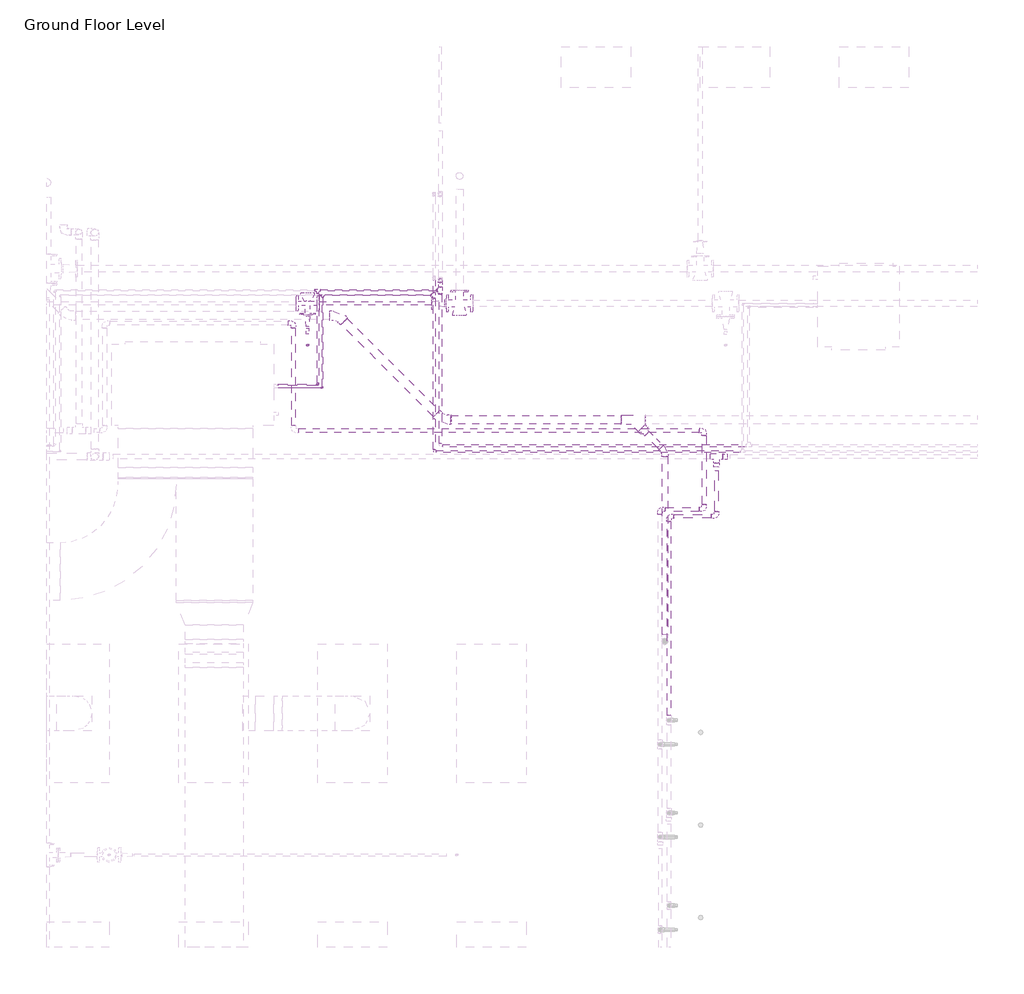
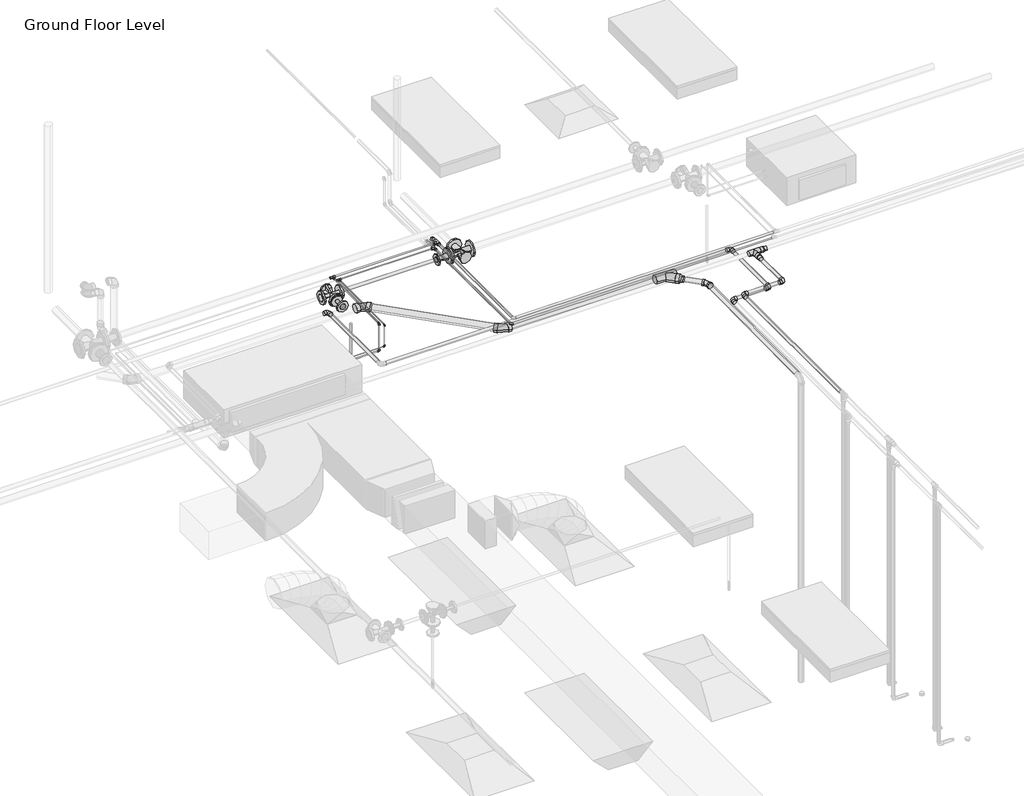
# One storey, part 53 of 73: 36 pipe fittings, 29 pipe segments, 1 fire suppression terminal.
"""IFC4 building model written with IfcOpenShell, lengths in millimetres."""

from ifc_helpers import new_model, si_unit, point, frame, frame_2d, origin, place, context, project, spatial, circle_curve, trimmed, segment, composite_curve, outline, extrude, transform, mapped, element, save
from components import m_sprinkler_pendent_15_mm_pendent_06fcbd8e, m_bend_pvc_sch_40_dwv_standard_9e3ead78, m_bend_pvc_sch_40_dwv_standard_3e306cb9, m_elbow_generic_standard_a088f956, m_elbow_generic_standard_2a704253, m_elbow_generic_standard_f25111a3, m_elbow_generic_standard_aa88c7e2, m_elbow_generic_standard_bb5ffebe, m_elbow_generic_standard_463efa77, m_reducer_flanged_cs_class_150_standard_ccf252ad, m_reducer_flanged_cs_class_150_standard_a7631c35, m_reducer_pvc_sch_40_dwv_standard_daff2b06, m_tee_generic_standard_cdc1cff5, m_tee_generic_standard_d9c36a1d, m_tee_generic_standard_3138dd84, m_tee_generic_standard_5078887e, m_tee_pvc_sch_40_standard_5dbb3026, m_tee_round_base_flanged_cs_class_150_standard_dd767e04, m_tee_round_base_flanged_cs_class_150_standard_7e5987a1, m_transition_generic_standard_6dc712c0, m_transition_generic_standard_b63c8674, m_transition_generic_standard_1c56dba2, m_transition_generic_standard_a7d161d7, m_transition_generic_standard_5a02929d, m_transition_generic_standard_5f8a9689, standard_517a5a8d, standard_08ff6011, standard_d0d0b892

model = new_model("IFC4")

# Units and contexts
model_context = context("Model", 3, world=origin())
ifc_project = project(units=[si_unit("LENGTHUNIT", "METRE", prefix="MILLI")], contexts=[model_context])

# Site, building, storey
site = spatial("IfcSite", under=ifc_project)
building = spatial("IfcBuilding", under=site)
storey = spatial("IfcBuildingStorey", under=building, Name="Ground Floor Level", Elevation=900.0)

# Fire suppression terminal
placement = place(None, origin())
m_sprinkler_pendent_15_mm_pendent_shape = m_sprinkler_pendent_15_mm_pendent_06fcbd8e(model_context)
element("IfcFireSuppressionTerminal", 1, ObjectType="M_Sprinkler - Pendent : 15 mm Pendent", at=placement, inside=storey, context=model_context, shape_type="MappedRepresentation", body=[
    mapped(m_sprinkler_pendent_15_mm_pendent_shape, transform((-3723.9852405, 14413.1701264, 3650.0), x_axis=(1.0, 0.0, 0.0), y_axis=(0.0, 1.0, 0.0), z_axis=(0.0, 0.0, 1.0))),
])

# Pipe fittings
m_bend_pvc_sch_40_dwv_standard_shape = m_bend_pvc_sch_40_dwv_standard_9e3ead78(model_context)
element("IfcPipeFitting", 2, ObjectType="M_Bend - PVC - Sch 40 - DWV : Standard", at=placement, inside=storey, context=model_context, shape_type="MappedRepresentation", body=[
    mapped(m_bend_pvc_sch_40_dwv_standard_shape, transform((-3461.339311, 14668.7334723, 4139.7239678), x_axis=(-0.707093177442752, 0.7070575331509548, 0.009427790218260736), y_axis=(-0.7070496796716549, -0.7071481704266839, 0.004713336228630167), z_axis=(0.009999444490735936, -0.003333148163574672, 0.9999444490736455))),
])
element("IfcPipeFitting", 3, ObjectType="M_Bend - PVC - Sch 40 - DWV : Standard", at=placement, inside=storey, context=model_context, shape_type="MappedRepresentation", body=[
    mapped(m_bend_pvc_sch_40_dwv_standard_shape, transform((-2561.2921336, 13768.7316659, 4127.72349), x_axis=(0.7070931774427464, -0.7070575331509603, -0.009427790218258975), y_axis=(0.7070496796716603, 0.7071481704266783, -0.0047133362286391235), z_axis=(0.009999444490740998, -0.003333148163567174, 0.9999444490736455))),
])
m_bend_pvc_sch_40_dwv_standard_2_shape = m_bend_pvc_sch_40_dwv_standard_3e306cb9(model_context)
element("IfcPipeFitting", 4, ObjectType="M_Bend - PVC - Sch 40 - DWV : Standard", at=placement, inside=storey, context=model_context, shape_type="MappedRepresentation", body=[
    mapped(m_bend_pvc_sch_40_dwv_standard_2_shape, transform((-642.2357232, 13495.4654482, 4110.1731446), x_axis=(0.0, 0.9999500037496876, 0.009999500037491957), y_axis=(-0.9999912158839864, -4.191228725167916e-05, 0.004191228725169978), z_axis=(0.004191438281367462, -0.00999941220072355, 0.9999412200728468))),
])
m_elbow_generic_standard_shape = m_elbow_generic_standard_a088f956(model_context)
element("IfcPipeFitting", 5, ObjectType="M_Elbow - Generic : Standard", at=placement, inside=storey, context=model_context, shape_type="MappedRepresentation", body=[
    mapped(m_elbow_generic_standard_shape, transform((-3637.0883718, 14069.8153534, 4380.0), x_axis=(0.0, 0.0, 1.0), y_axis=(0.0, 1.0, 0.0), z_axis=(-1.0, 0.0, 0.0))),
])
m_elbow_generic_standard_2_shape = m_elbow_generic_standard_2a704253(model_context)
element("IfcPipeFitting", 6, ObjectType="M_Elbow - Generic : Standard", at=placement, inside=storey, context=model_context, shape_type="MappedRepresentation", body=[
    mapped(m_elbow_generic_standard_2_shape, transform((-3597.0886568, 14044.8153534, 4365.0), x_axis=(0.0, 0.0, 1.0), y_axis=(0.0, 1.0, 0.0), z_axis=(-1.0, 0.0, 0.0))),
])
m_elbow_generic_standard_3_shape = m_elbow_generic_standard_f25111a3(model_context)
element("IfcPipeFitting", 7, ObjectType="M_Elbow - Generic : Standard", at=placement, inside=storey, context=model_context, shape_type="MappedRepresentation", body=[
    mapped(m_elbow_generic_standard_3_shape, transform((-3597.0886568, 14044.8153534, 4134.9021206), x_axis=(0.9999999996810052, 0.0, 2.525845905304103e-05), y_axis=(-2.525845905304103e-05, 0.0, 0.9999999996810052), z_axis=(0.0, -1.0, 0.0))),
])
m_elbow_generic_standard_4_shape = m_elbow_generic_standard_aa88c7e2(model_context)
element("IfcPipeFitting", 8, ObjectType="M_Elbow - Generic : Standard", at=placement, inside=storey, context=model_context, shape_type="MappedRepresentation", body=[
    mapped(m_elbow_generic_standard_4_shape, transform((-3637.0883718, 14069.8153534, 4084.1021206), x_axis=(0.9999999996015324, 0.0, 2.823004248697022e-05), y_axis=(-2.823004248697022e-05, 0.0, 0.9999999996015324), z_axis=(0.0, -1.0, 0.0))),
])
m_elbow_generic_standard_5_shape = m_elbow_generic_standard_bb5ffebe(model_context)
element("IfcPipeFitting", 9, ObjectType="M_Elbow - Generic : Standard", at=placement, inside=storey, context=model_context, shape_type="MappedRepresentation", body=[
    mapped(m_elbow_generic_standard_5_shape, transform((-2632.5317947, 13494.0185138, 4365.0), x_axis=(0.0, -1.0, 0.0), y_axis=(1.0, 0.0, 0.0), z_axis=(0.0, 0.0, 1.0))),
])
m_elbow_generic_standard_6_shape = m_elbow_generic_standard_463efa77(model_context)
element("IfcPipeFitting", 10, ObjectType="M_Elbow - Generic : Standard", at=placement, inside=storey, context=model_context, shape_type="MappedRepresentation", body=[
    mapped(m_elbow_generic_standard_6_shape, transform((-2579.6952605, 14974.394156, 4380.0), x_axis=(0.0, 1.0, 0.0), y_axis=(0.0, 0.0, -1.0), z_axis=(-1.0, 0.0, 0.0))),
])
m_reducer_flanged_cs_class_150_standard_shape = m_reducer_flanged_cs_class_150_standard_ccf252ad(model_context)
element("IfcPipeFitting", 11, ObjectType="M_Reducer - Flanged - CS - Class 150 : Standard", at=placement, inside=storey, context=model_context, shape_type="MappedRepresentation", body=[
    mapped(m_reducer_flanged_cs_class_150_standard_shape, transform((-3723.9852405, 14672.759591, 4291.0943441), x_axis=(0.0, -1.0, 0.0), y_axis=(1.0, 0.0, 0.0), z_axis=(0.0, 0.0, 1.0))),
])
m_reducer_flanged_cs_class_150_standard_2_shape = m_reducer_flanged_cs_class_150_standard_a7631c35(model_context)
element("IfcPipeFitting", 12, ObjectType="M_Reducer - Flanged - CS - Class 150 : Standard", at=placement, inside=storey, context=model_context, shape_type="MappedRepresentation", body=[
    mapped(m_reducer_flanged_cs_class_150_standard_2_shape, transform((-2527.9259545, 14773.4681847, 4291.0943441), x_axis=(-1.0, 0.0, 0.0), y_axis=(0.0, -1.0, 0.0), z_axis=(0.0, 0.0, 1.0))),
])
m_reducer_pvc_sch_40_dwv_standard_shape = m_reducer_pvc_sch_40_dwv_standard_daff2b06(model_context)
element("IfcPipeFitting", 13, ObjectType="M_Reducer - PVC - Sch 40 - DWV : Standard", at=placement, inside=storey, context=model_context, shape_type="MappedRepresentation", body=[
    mapped(m_reducer_pvc_sch_40_dwv_standard_shape, transform((-843.6840301, 13696.9036229, 4110.2439857), x_axis=(0.7070889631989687, -0.7070533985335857, -0.010034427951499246), y_axis=(0.707053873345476, 0.7071477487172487, -0.004108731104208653), z_axis=(0.010000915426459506, -0.004189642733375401, 0.9999412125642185))),
])
m_tee_generic_standard_shape = m_tee_generic_standard_cdc1cff5(model_context)
element("IfcPipeFitting", 14, ObjectType="M_Tee - Generic : Standard", at=placement, inside=storey, context=model_context, shape_type="MappedRepresentation", body=[
    mapped(m_tee_generic_standard_shape, transform((-3637.091079, 14885.6024145, 4380.0), x_axis=(-1.0, 0.0, 0.0), y_axis=(0.0, 1.0, 0.0), z_axis=(0.0, 0.0, -1.0))),
])
m_tee_generic_standard_2_shape = m_tee_generic_standard_d9c36a1d(model_context)
element("IfcPipeFitting", 15, ObjectType="M_Tee - Generic : Standard", at=placement, inside=storey, context=model_context, shape_type="MappedRepresentation", body=[
    mapped(m_tee_generic_standard_2_shape, transform((-3597.091079, 14844.4055749, 4365.0), x_axis=(1.0, 0.0, 0.0), y_axis=(0.0, 1.0, 0.0), z_axis=(0.0, 0.0, 1.0))),
])
m_tee_generic_standard_3_shape = m_tee_generic_standard_3138dd84(model_context)
element("IfcPipeFitting", 16, ObjectType="M_Tee - Generic : Standard", at=placement, inside=storey, context=model_context, shape_type="MappedRepresentation", body=[
    mapped(m_tee_generic_standard_3_shape, transform((-2579.6952605, 14885.6024145, 4380.0), x_axis=(0.0, 1.0, 0.0), y_axis=(1.0, 0.0, 0.0), z_axis=(0.0, 0.0, -1.0))),
])
m_tee_generic_standard_4_shape = m_tee_generic_standard_5078887e(model_context)
element("IfcPipeFitting", 17, ObjectType="M_Tee - Generic : Standard", at=placement, inside=storey, context=model_context, shape_type="MappedRepresentation", body=[
    mapped(m_tee_generic_standard_4_shape, transform((-2632.5317947, 14844.4055749, 4365.0), x_axis=(0.0, 1.0, 0.0), y_axis=(1.0, 0.0, 0.0), z_axis=(0.0, 0.0, -1.0))),
])
m_tee_pvc_sch_40_standard_shape = m_tee_pvc_sch_40_standard_5dbb3026(model_context)
element("IfcPipeFitting", 18, ObjectType="M_Tee - PVC - Sch 40 : Standard", at=placement, inside=storey, context=model_context, shape_type="MappedRepresentation", body=[
    mapped(m_tee_pvc_sch_40_standard_shape, transform((-915.515686, 13768.7316659, 4111.2633618), x_axis=(-0.9999499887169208, 0.0, 0.010001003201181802), y_axis=(4.190063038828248e-05, 0.9999912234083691, 0.004189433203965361), z_axis=(-0.010000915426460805, 0.004189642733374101, -0.9999412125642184))),
])
m_tee_round_base_flanged_cs_class_150_standard_shape = m_tee_round_base_flanged_cs_class_150_standard_dd767e04(model_context)
element("IfcPipeFitting", 19, ObjectType="M_Tee Round Base - Flanged - CS - Class 150 : Standard", at=placement, inside=storey, context=model_context, shape_type="MappedRepresentation", body=[
    mapped(m_tee_round_base_flanged_cs_class_150_standard_shape, transform((-2413.9259545, 14773.4681847, 4291.0943441), x_axis=(-1.0, 0.0, 0.0), y_axis=(0.0, -1.0, 0.0), z_axis=(0.0, 0.0, 1.0))),
])
m_tee_round_base_flanged_cs_class_150_standard_2_shape = m_tee_round_base_flanged_cs_class_150_standard_7e5987a1(model_context)
element("IfcPipeFitting", 20, ObjectType="M_Tee Round Base - Flanged - CS - Class 150 : Standard", at=placement, inside=storey, context=model_context, shape_type="MappedRepresentation", body=[
    mapped(m_tee_round_base_flanged_cs_class_150_standard_2_shape, transform((-3723.9852405, 14773.4681847, 4291.0943441), x_axis=(-1.0, 0.0, 0.0), y_axis=(0.0, 1.0, 0.0), z_axis=(0.0, 0.0, -1.0))),
])
m_transition_generic_standard_shape = m_transition_generic_standard_6dc712c0(model_context)
element("IfcPipeFitting", 21, ObjectType="M_Transition - Generic : Standard", at=placement, inside=storey, context=model_context, shape_type="MappedRepresentation", body=[
    mapped(m_transition_generic_standard_shape, transform((-3659.316079, 14885.6024145, 4380.0), x_axis=(-1.0, 0.0, 0.0), y_axis=(0.0, -1.0, 0.0), z_axis=(0.0, 0.0, 1.0))),
])
element("IfcPipeFitting", 22, ObjectType="M_Transition - Generic : Standard", at=placement, inside=storey, context=model_context, shape_type="MappedRepresentation", body=[
    mapped(m_transition_generic_standard_shape, transform((-3637.091079, 14863.3774145, 4380.0), x_axis=(0.0, -1.0, 0.0), y_axis=(1.0, 0.0, 0.0), z_axis=(0.0, 0.0, 1.0))),
])
m_transition_generic_standard_2_shape = m_transition_generic_standard_b63c8674(model_context)
element("IfcPipeFitting", 23, ObjectType="M_Transition - Generic : Standard", at=placement, inside=storey, context=model_context, shape_type="MappedRepresentation", body=[
    mapped(m_transition_generic_standard_2_shape, transform((-3616.128579, 14844.4055749, 4365.0), x_axis=(-1.0, 0.0, 0.0), y_axis=(0.0, -1.0, 0.0), z_axis=(0.0, 0.0, 1.0))),
])
element("IfcPipeFitting", 24, ObjectType="M_Transition - Generic : Standard", at=placement, inside=storey, context=model_context, shape_type="MappedRepresentation", body=[
    mapped(m_transition_generic_standard_2_shape, transform((-3597.091079, 14825.3680749, 4365.0), x_axis=(0.0, -1.0, 0.0), y_axis=(1.0, 0.0, 0.0), z_axis=(0.0, 0.0, 1.0))),
])
m_transition_generic_standard_3_shape = m_transition_generic_standard_1c56dba2(model_context)
element("IfcPipeFitting", 25, ObjectType="M_Transition - Generic : Standard", at=placement, inside=storey, context=model_context, shape_type="MappedRepresentation", body=[
    mapped(m_transition_generic_standard_3_shape, transform((-2608.2702605, 14885.6024145, 4380.0), x_axis=(-1.0, 0.0, 0.0), y_axis=(0.0, -1.0, 0.0), z_axis=(0.0, 0.0, 1.0))),
])
m_transition_generic_standard_4_shape = m_transition_generic_standard_a7d161d7(model_context)
element("IfcPipeFitting", 26, ObjectType="M_Transition - Generic : Standard", at=placement, inside=storey, context=model_context, shape_type="MappedRepresentation", body=[
    mapped(m_transition_generic_standard_4_shape, transform((-2656.3442947, 14844.4055749, 4365.0), x_axis=(-1.0, 0.0, 0.0), y_axis=(0.0, -1.0, 0.0), z_axis=(0.0, 0.0, 1.0))),
])
m_transition_generic_standard_5_shape = m_transition_generic_standard_5a02929d(model_context)
element("IfcPipeFitting", 27, ObjectType="M_Transition - Generic : Standard", at=placement, inside=storey, context=model_context, shape_type="MappedRepresentation", body=[
    mapped(m_transition_generic_standard_5_shape, transform((-2579.6952605, 14857.0274145, 4380.0), x_axis=(0.0, -1.0, 0.0), y_axis=(1.0, 0.0, 0.0), z_axis=(0.0, 0.0, 1.0))),
])
m_transition_generic_standard_6_shape = m_transition_generic_standard_5f8a9689(model_context)
element("IfcPipeFitting", 28, ObjectType="M_Transition - Generic : Standard", at=placement, inside=storey, context=model_context, shape_type="MappedRepresentation", body=[
    mapped(m_transition_generic_standard_6_shape, transform((-2632.5317947, 14820.5930749, 4365.0), x_axis=(0.0, -1.0, 0.0), y_axis=(1.0, 0.0, 0.0), z_axis=(0.0, 0.0, 1.0))),
])
standard_shape = standard_517a5a8d(model_context)
element("IfcPipeFitting", 29, ObjectType="M_Elbow - CPVC - Sch 40 : Standard", at=placement, inside=storey, context=model_context, shape_type="MappedRepresentation", body=[
    mapped(standard_shape, transform((-607.2327605, 12935.5128345, 4315.0), x_axis=(-1.0, 0.0, 0.0), y_axis=(0.0, -1.0, 0.0), z_axis=(0.0, 0.0, 1.0))),
])
element("IfcPipeFitting", 30, ObjectType="M_Elbow - CPVC - Sch 40 : Standard", at=placement, inside=storey, context=model_context, shape_type="MappedRepresentation", body=[
    mapped(standard_shape, transform((-197.2327605, 12935.5128345, 4315.0), x_axis=(1.0, 0.0, 0.0), y_axis=(0.0, 1.0, 0.0), z_axis=(0.0, 0.0, 1.0))),
])
element("IfcPipeFitting", 31, ObjectType="M_Elbow - CPVC - Sch 40 : Standard", at=placement, inside=storey, context=model_context, shape_type="MappedRepresentation", body=[
    mapped(standard_shape, transform((-304.0671674, 13675.2153534, 4250.0), x_axis=(0.0, 1.0, 0.0), y_axis=(-1.0, 0.0, 0.0), z_axis=(0.0, 0.0, 1.0))),
])
element("IfcPipeFitting", 32, ObjectType="M_Elbow - CPVC - Sch 40 : Standard", at=placement, inside=storey, context=model_context, shape_type="MappedRepresentation", body=[
    mapped(standard_shape, transform((-304.0671674, 12995.2153534, 4250.0), x_axis=(1.0, 0.0, 0.0), y_axis=(0.0, 1.0, 0.0), z_axis=(0.0, 0.0, 1.0))),
])
element("IfcPipeFitting", 33, ObjectType="M_Elbow - CPVC - Sch 40 : Standard", at=placement, inside=storey, context=model_context, shape_type="MappedRepresentation", body=[
    mapped(standard_shape, transform((-684.0671674, 12995.2153534, 4250.0), x_axis=(-1.0, 0.0, 0.0), y_axis=(0.0, -1.0, 0.0), z_axis=(0.0, 0.0, 1.0))),
])
element("IfcPipeFitting", 34, ObjectType="M_Elbow - CPVC - Sch 40 : Standard", at=placement, inside=storey, context=model_context, shape_type="MappedRepresentation", body=[
    mapped(standard_shape, transform((-3846.4489567, 14603.43487, 4250.0), x_axis=(0.0, 1.0, 0.0), y_axis=(-1.0, 0.0, 0.0), z_axis=(0.0, 0.0, 1.0))),
])
standard_2_shape = standard_08ff6011(model_context)
element("IfcPipeFitting", 35, ObjectType="M_Tee - CPVC - Sch 40 : Standard", at=placement, inside=storey, context=model_context, shape_type="MappedRepresentation", body=[
    mapped(standard_2_shape, transform((-197.2327605, 13449.9865561, 4315.0), x_axis=(1.0, 0.0, 0.0), y_axis=(0.0, 1.0, 0.0), z_axis=(0.0, 0.0, 1.0))),
])
standard_3_shape = standard_d0d0b892(model_context)
element("IfcPipeFitting", 36, ObjectType="M_Coupling Reducing - CPVC - Sch 40 : Standard", at=placement, inside=storey, context=model_context, shape_type="MappedRepresentation", body=[
    mapped(standard_3_shape, transform((-143.2577605, 13449.9865561, 4315.0), x_axis=(1.0, 0.0, 0.0), y_axis=(0.0, 1.0, 0.0), z_axis=(0.0, 0.0, 1.0))),
])
element("IfcPipeFitting", 37, ObjectType="M_Coupling Reducing - CPVC - Sch 40 : Standard", at=placement, inside=storey, context=model_context, shape_type="MappedRepresentation", body=[
    mapped(standard_3_shape, transform((-197.2327605, 13396.0115561, 4315.0), x_axis=(0.0, -1.0, 0.0), y_axis=(1.0, 0.0, 0.0), z_axis=(0.0, 0.0, 1.0))),
])

# Pipe segments
element("IfcPipeSegment", 38, ObjectType="CPVC", at=placement, inside=storey, context=model_context, shape_type="SweptSolid", body=[
    extrude(outline(composite_curve([segment(trimmed(circle_curve(frame_2d((4315.0, -607.2327605)), 16.7005), [point((4315.0, -590.5322605))], [point((4331.7005, -607.2327605))], False, "CARTESIAN"), True, "CONTINUOUS"), segment(trimmed(circle_curve(frame_2d((4315.0, -607.2327605)), 16.7005), [point((4331.7005, -607.2327605))], [point((4315.0, -623.9332605))], False, "CARTESIAN"), True, "CONTINUOUS"), segment(trimmed(circle_curve(frame_2d((4315.0, -607.2327605)), 16.7005), [point((4315.0, -623.9332605))], [point((4298.2995, -607.2327605))], False, "CARTESIAN"), True, "CONTINUOUS"), segment(trimmed(circle_curve(frame_2d((4315.0, -607.2327605)), 16.7005), [point((4298.2995, -607.2327605))], [point((4315.0, -590.5322605))], False, "CARTESIAN"), True, "CONTINUOUS")], self_intersect=False)), frame((0.0, 11215.2130345, 0.0), z_axis=(0.0, 1.0, 0.0), x_axis=(0.0, 0.0, 1.0)), (0.0, 0.0, 1.0), 1677.03725),
])
element("IfcPipeSegment", 39, ObjectType="CPVC", at=placement, inside=storey, context=model_context, shape_type="SweptSolid", body=[
    extrude(outline(composite_curve([segment(trimmed(circle_curve(frame_2d((12935.5128345, 4315.0)), 16.7005), [point((12918.8123345, 4315.0))], [point((12935.5128345, 4331.7005))], False, "CARTESIAN"), True, "CONTINUOUS"), segment(trimmed(circle_curve(frame_2d((12935.5128345, 4315.0)), 16.7005), [point((12935.5128345, 4331.7005))], [point((12952.2133345, 4315.0))], False, "CARTESIAN"), True, "CONTINUOUS"), segment(trimmed(circle_curve(frame_2d((12935.5128345, 4315.0)), 16.7005), [point((12952.2133345, 4315.0))], [point((12935.5128345, 4298.2995))], False, "CARTESIAN"), True, "CONTINUOUS"), segment(trimmed(circle_curve(frame_2d((12935.5128345, 4315.0)), 16.7005), [point((12935.5128345, 4298.2995))], [point((12918.8123345, 4315.0))], False, "CARTESIAN"), True, "CONTINUOUS")], self_intersect=False)), frame((-563.9702105, 0.0, 0.0), z_axis=(1.0, 0.0, 0.0), x_axis=(0.0, 1.0, 0.0)), (0.0, 0.0, 1.0), 323.4749),
])
element("IfcPipeSegment", 40, ObjectType="CPVC", at=placement, inside=storey, context=model_context, shape_type="SweptSolid", body=[
    extrude(outline(composite_curve([segment(trimmed(circle_curve(frame_2d((4315.0, -197.2327605)), 16.7005), [point((4315.0, -180.5322605))], [point((4331.7005, -197.2327605))], False, "CARTESIAN"), True, "CONTINUOUS"), segment(trimmed(circle_curve(frame_2d((4315.0, -197.2327605)), 16.7005), [point((4331.7005, -197.2327605))], [point((4315.0, -213.9332605))], False, "CARTESIAN"), True, "CONTINUOUS"), segment(trimmed(circle_curve(frame_2d((4315.0, -197.2327605)), 16.7005), [point((4315.0, -213.9332605))], [point((4298.2995, -197.2327605))], False, "CARTESIAN"), True, "CONTINUOUS"), segment(trimmed(circle_curve(frame_2d((4315.0, -197.2327605)), 16.7005), [point((4298.2995, -197.2327605))], [point((4315.0, -180.5322605))], False, "CARTESIAN"), True, "CONTINUOUS")], self_intersect=False)), frame((0.0, 12978.7753845, 0.0), z_axis=(0.0, 1.0, 0.0), x_axis=(0.0, 0.0, 1.0)), (0.0, 0.0, 1.0), 351.1172966),
])
element("IfcPipeSegment", 41, ObjectType="CPVC", at=placement, inside=storey, context=model_context, shape_type="SweptSolid", body=[
    extrude(outline(composite_curve([segment(trimmed(circle_curve(frame_2d((4250.0, -304.0671674)), 16.7005), [point((4250.0, -320.7676674))], [point((4233.2995, -304.0671674))], False, "CARTESIAN"), True, "CONTINUOUS"), segment(trimmed(circle_curve(frame_2d((4250.0, -304.0671674)), 16.7005), [point((4233.2995, -304.0671674))], [point((4250.0, -287.3666674))], False, "CARTESIAN"), True, "CONTINUOUS"), segment(trimmed(circle_curve(frame_2d((4250.0, -304.0671674)), 16.7005), [point((4250.0, -287.3666674))], [point((4266.7005, -304.0671674))], False, "CARTESIAN"), True, "CONTINUOUS"), segment(trimmed(circle_curve(frame_2d((4250.0, -304.0671674)), 16.7005), [point((4266.7005, -304.0671674))], [point((4250.0, -320.7676674))], False, "CARTESIAN"), True, "CONTINUOUS")], self_intersect=False)), frame((0.0, 13038.4779034, 0.0), z_axis=(0.0, 1.0, 0.0), x_axis=(0.0, 0.0, 1.0)), (0.0, 0.0, 1.0), 593.4749),
])
element("IfcPipeSegment", 42, ObjectType="CPVC", at=placement, inside=storey, context=model_context, shape_type="SweptSolid", body=[
    extrude(outline(composite_curve([segment(trimmed(circle_curve(frame_2d((12995.2153534, 4250.0)), 16.7005), [point((13011.9158534, 4250.0))], [point((12995.2153534, 4233.2995))], False, "CARTESIAN"), True, "CONTINUOUS"), segment(trimmed(circle_curve(frame_2d((12995.2153534, 4250.0)), 16.7005), [point((12995.2153534, 4233.2995))], [point((12978.5148534, 4250.0))], False, "CARTESIAN"), True, "CONTINUOUS"), segment(trimmed(circle_curve(frame_2d((12995.2153534, 4250.0)), 16.7005), [point((12978.5148534, 4250.0))], [point((12995.2153534, 4266.7005))], False, "CARTESIAN"), True, "CONTINUOUS"), segment(trimmed(circle_curve(frame_2d((12995.2153534, 4250.0)), 16.7005), [point((12995.2153534, 4266.7005))], [point((13011.9158534, 4250.0))], False, "CARTESIAN"), True, "CONTINUOUS")], self_intersect=False)), frame((-640.8046174, 0.0, 0.0), z_axis=(1.0, 0.0, 0.0), x_axis=(0.0, 1.0, 0.0)), (0.0, 0.0, 1.0), 293.4749),
])
element("IfcPipeSegment", 43, ObjectType="CPVC", at=placement, inside=storey, context=model_context, shape_type="SweptSolid", body=[
    extrude(outline(composite_curve([segment(trimmed(circle_curve(frame_2d((4250.0, -3846.4489567)), 16.7005), [point((4250.0, -3863.1494567))], [point((4233.2995, -3846.4489567))], False, "CARTESIAN"), True, "CONTINUOUS"), segment(trimmed(circle_curve(frame_2d((4250.0, -3846.4489567)), 16.7005), [point((4233.2995, -3846.4489567))], [point((4250.0, -3829.7484567))], False, "CARTESIAN"), True, "CONTINUOUS"), segment(trimmed(circle_curve(frame_2d((4250.0, -3846.4489567)), 16.7005), [point((4250.0, -3829.7484567))], [point((4266.7005, -3846.4489567))], False, "CARTESIAN"), True, "CONTINUOUS"), segment(trimmed(circle_curve(frame_2d((4250.0, -3846.4489567)), 16.7005), [point((4266.7005, -3846.4489567))], [point((4250.0, -3863.1494567))], False, "CARTESIAN"), True, "CONTINUOUS")], self_intersect=False)), frame((0.0, 13718.4779034, 0.0), z_axis=(0.0, 1.0, 0.0), x_axis=(0.0, 0.0, 1.0)), (0.0, 0.0, 1.0), 841.6944166),
])
element("IfcPipeSegment", 44, ObjectType="CPVC", at=placement, inside=storey, context=model_context, shape_type="SweptSolid", body=[
    extrude(outline(composite_curve([segment(trimmed(circle_curve(frame_2d((13675.2153534, 4250.0)), 16.7005), [point((13691.9158534, 4250.0))], [point((13675.2153534, 4233.2995))], False, "CARTESIAN"), True, "CONTINUOUS"), segment(trimmed(circle_curve(frame_2d((13675.2153534, 4250.0)), 16.7005), [point((13675.2153534, 4233.2995))], [point((13658.5148534, 4250.0))], False, "CARTESIAN"), True, "CONTINUOUS"), segment(trimmed(circle_curve(frame_2d((13675.2153534, 4250.0)), 16.7005), [point((13658.5148534, 4250.0))], [point((13675.2153534, 4266.7005))], False, "CARTESIAN"), True, "CONTINUOUS"), segment(trimmed(circle_curve(frame_2d((13675.2153534, 4250.0)), 16.7005), [point((13675.2153534, 4266.7005))], [point((13691.9158534, 4250.0))], False, "CARTESIAN"), True, "CONTINUOUS")], self_intersect=False)), frame((-3803.1864067, 0.0, 0.0), z_axis=(1.0, 0.0, 0.0), x_axis=(0.0, 1.0, 0.0)), (0.0, 0.0, 1.0), 3455.8566893),
])
element("IfcPipeSegment", 45, ObjectType="Copper", at=placement, inside=storey, context=model_context, shape_type="SweptSolid", body=[
    extrude(outline(composite_curve([segment(trimmed(circle_curve(frame_2d((4380.0, -2579.6952605)), 11.5), [point((4380.0, -2591.1952605))], [point((4368.5, -2579.6952605))], False, "CARTESIAN"), True, "CONTINUOUS"), segment(trimmed(circle_curve(frame_2d((4380.0, -2579.6952605)), 11.5), [point((4368.5, -2579.6952605))], [point((4380.0, -2568.1952605))], False, "CARTESIAN"), True, "CONTINUOUS"), segment(trimmed(circle_curve(frame_2d((4380.0, -2579.6952605)), 11.5), [point((4380.0, -2568.1952605))], [point((4391.5, -2579.6952605))], False, "CARTESIAN"), True, "CONTINUOUS"), segment(trimmed(circle_curve(frame_2d((4380.0, -2579.6952605)), 11.5), [point((4391.5, -2579.6952605))], [point((4380.0, -2591.1952605))], False, "CARTESIAN"), True, "CONTINUOUS")], self_intersect=False)), frame((0.0, 13564.2653534, 0.0), z_axis=(0.0, 1.0, 0.0), x_axis=(0.0, 0.0, 1.0)), (0.0, 0.0, 1.0), 1284.8245611),
])
element("IfcPipeSegment", 46, ObjectType="Copper", at=placement, inside=storey, context=model_context, shape_type="SweptSolid", body=[
    extrude(outline(composite_curve([segment(trimmed(circle_curve(frame_2d((4365.0, -2632.5317947)), 8.1), [point((4365.0, -2640.6317947))], [point((4356.9, -2632.5317947))], False, "CARTESIAN"), True, "CONTINUOUS"), segment(trimmed(circle_curve(frame_2d((4365.0, -2632.5317947)), 8.1), [point((4356.9, -2632.5317947))], [point((4365.0, -2624.4317947))], False, "CARTESIAN"), True, "CONTINUOUS"), segment(trimmed(circle_curve(frame_2d((4365.0, -2632.5317947)), 8.1), [point((4365.0, -2624.4317947))], [point((4373.1, -2632.5317947))], False, "CARTESIAN"), True, "CONTINUOUS"), segment(trimmed(circle_curve(frame_2d((4365.0, -2632.5317947)), 8.1), [point((4373.1, -2632.5317947))], [point((4365.0, -2640.6317947))], False, "CARTESIAN"), True, "CONTINUOUS")], self_intersect=False)), frame((0.0, 13509.8935138, 0.0), z_axis=(0.0, 1.0, 0.0), x_axis=(0.0, 0.0, 1.0)), (0.0, 0.0, 1.0), 1305.1433111),
])
element("IfcPipeSegment", 47, ObjectType="Copper", at=placement, inside=storey, context=model_context, shape_type="SweptSolid", body=[
    extrude(outline(composite_curve([segment(trimmed(circle_curve(frame_2d((0.0, 6.5)), 6.5), [point((-6.5, 6.5))], [point((0.0, 13.0))], False, "CARTESIAN"), True, "CONTINUOUS"), segment(trimmed(circle_curve(frame_2d((0.0, 6.5)), 6.5), [point((0.0, 13.0))], [point((6.5, 6.5))], False, "CARTESIAN"), True, "CONTINUOUS"), segment(trimmed(circle_curve(frame_2d((0.0, 6.5)), 6.5), [point((6.5, 6.5))], [point((0.0, 0.0))], False, "CARTESIAN"), True, "CONTINUOUS"), segment(trimmed(circle_curve(frame_2d((0.0, 6.5)), 6.5), [point((0.0, 0.0))], [point((-6.5, 6.5))], False, "CARTESIAN"), True, "CONTINUOUS")], self_intersect=False)), frame((-3977.0908954, 14069.8153534, 4077.5925223), z_axis=(0.9999999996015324, 0.0, 2.8230042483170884e-05), x_axis=(0.0, 1.0, 0.0)), (0.0, 0.0, 1.0), 325.7156105),
])
element("IfcPipeSegment", 48, ObjectType="Copper", at=placement, inside=storey, context=model_context, shape_type="SweptSolid", body=[
    extrude(outline(composite_curve([segment(trimmed(circle_curve(frame_2d((0.0, 6.5)), 6.5), [point((0.0, 13.0))], [point((6.5, 6.5))], False, "CARTESIAN"), True, "CONTINUOUS"), segment(trimmed(circle_curve(frame_2d((0.0, 6.5)), 6.5), [point((6.5, 6.5))], [point((0.0, 0.0))], False, "CARTESIAN"), True, "CONTINUOUS"), segment(trimmed(circle_curve(frame_2d((0.0, 6.5)), 6.5), [point((0.0, 0.0))], [point((-6.5, 6.5))], False, "CARTESIAN"), True, "CONTINUOUS"), segment(trimmed(circle_curve(frame_2d((0.0, 6.5)), 6.5), [point((-6.5, 6.5))], [point((0.0, 13.0))], False, "CARTESIAN"), True, "CONTINUOUS")], self_intersect=False)), frame((-3643.5883718, 14084.1028307, 4380.0), z_axis=(-3.495363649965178e-06, 0.9999999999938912, 0.0), x_axis=(0.0, 0.0, 1.0)), (0.0, 0.0, 1.0), 774.5120611),
])
element("IfcPipeSegment", 49, ObjectType="Copper", at=placement, inside=storey, context=model_context, shape_type="SweptSolid", body=[
    extrude(outline(composite_curve([segment(trimmed(circle_curve(frame_2d((0.0, 3.35)), 3.35), [point((-3.35, 3.35))], [point((0.0, 6.7))], False, "CARTESIAN"), True, "CONTINUOUS"), segment(trimmed(circle_curve(frame_2d((0.0, 3.35)), 3.35), [point((0.0, 6.7))], [point((3.35, 3.35))], False, "CARTESIAN"), True, "CONTINUOUS"), segment(trimmed(circle_curve(frame_2d((0.0, 3.35)), 3.35), [point((3.35, 3.35))], [point((0.0, 0.0))], False, "CARTESIAN"), True, "CONTINUOUS"), segment(trimmed(circle_curve(frame_2d((0.0, 3.35)), 3.35), [point((0.0, 0.0))], [point((-3.35, 3.35))], False, "CARTESIAN"), True, "CONTINUOUS")], self_intersect=False)), frame((-3977.0909943, 14044.8153534, 4131.5425223), z_axis=(0.9999999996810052, 0.0, 2.5258459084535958e-05), x_axis=(0.0, 1.0, 0.0)), (0.0, 0.0, 1.0), 368.8652035),
])
element("IfcPipeSegment", 50, ObjectType="Copper", at=placement, inside=storey, context=model_context, shape_type="SweptSolid", body=[
    extrude(outline(composite_curve([segment(trimmed(circle_curve(frame_2d((0.0, 3.35)), 3.35), [point((0.0, 6.7))], [point((3.35, 3.35))], False, "CARTESIAN"), True, "CONTINUOUS"), segment(trimmed(circle_curve(frame_2d((0.0, 3.35)), 3.35), [point((3.35, 3.35))], [point((0.0, 0.0))], False, "CARTESIAN"), True, "CONTINUOUS"), segment(trimmed(circle_curve(frame_2d((0.0, 3.35)), 3.35), [point((0.0, 0.0))], [point((-3.35, 3.35))], False, "CARTESIAN"), True, "CONTINUOUS"), segment(trimmed(circle_curve(frame_2d((0.0, 3.35)), 3.35), [point((-3.35, 3.35))], [point((0.0, 6.7))], False, "CARTESIAN"), True, "CONTINUOUS")], self_intersect=False)), frame((-3600.4386568, 14055.9528428, 4365.0), z_axis=(-3.1611664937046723e-06, 0.9999999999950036, 0.0), x_axis=(0.0, 0.0, 1.0)), (0.0, 0.0, 1.0), 766.2464715),
])
element("IfcPipeSegment", 51, ObjectType="Copper", at=placement, inside=storey, context=model_context, shape_type="SweptSolid", body=[
    extrude(outline(composite_curve([segment(trimmed(circle_curve(frame_2d((-3597.0886568, 14044.8153534)), 3.35), [point((-3600.4386568, 14044.8153534))], [point((-3597.0886568, 14048.1653534))], False, "CARTESIAN"), True, "CONTINUOUS"), segment(trimmed(circle_curve(frame_2d((-3597.0886568, 14044.8153534)), 3.35), [point((-3597.0886568, 14048.1653534))], [point((-3593.7386568, 14044.8153534))], False, "CARTESIAN"), True, "CONTINUOUS"), segment(trimmed(circle_curve(frame_2d((-3597.0886568, 14044.8153534)), 3.35), [point((-3593.7386568, 14044.8153534))], [point((-3597.0886568, 14041.4653534))], False, "CARTESIAN"), True, "CONTINUOUS"), segment(trimmed(circle_curve(frame_2d((-3597.0886568, 14044.8153534)), 3.35), [point((-3597.0886568, 14041.4653534))], [point((-3600.4386568, 14044.8153534))], False, "CARTESIAN"), True, "CONTINUOUS")], self_intersect=False)), frame((0.0, 0.0, 4146.0393393), z_axis=(0.0, 0.0, 1.0), x_axis=(1.0, 0.0, 0.0)), (0.0, 0.0, 1.0), 207.8231607),
])
element("IfcPipeSegment", 52, ObjectType="Copper", at=placement, inside=storey, context=model_context, shape_type="SweptSolid", body=[
    extrude(outline(composite_curve([segment(trimmed(circle_curve(frame_2d((-3637.0883718, 14069.8153534)), 6.5), [point((-3643.5883718, 14069.8153534))], [point((-3637.0883718, 14076.3153534))], False, "CARTESIAN"), True, "CONTINUOUS"), segment(trimmed(circle_curve(frame_2d((-3637.0883718, 14069.8153534)), 6.5), [point((-3637.0883718, 14076.3153534))], [point((-3630.5883718, 14069.8153534))], False, "CARTESIAN"), True, "CONTINUOUS"), segment(trimmed(circle_curve(frame_2d((-3637.0883718, 14069.8153534)), 6.5), [point((-3630.5883718, 14069.8153534))], [point((-3637.0883718, 14063.3153534))], False, "CARTESIAN"), True, "CONTINUOUS"), segment(trimmed(circle_curve(frame_2d((-3637.0883718, 14069.8153534)), 6.5), [point((-3637.0883718, 14063.3153534))], [point((-3643.5883718, 14069.8153534))], False, "CARTESIAN"), True, "CONTINUOUS")], self_intersect=False)), frame((0.0, 0.0, 4098.3892173), z_axis=(0.0, 0.0, 1.0), x_axis=(1.0, 0.0, 0.0)), (0.0, 0.0, 1.0), 267.3232827),
])
element("IfcPipeSegment", 53, ObjectType="Copper", at=placement, inside=storey, context=model_context, shape_type="SweptSolid", body=[
    extrude(outline(composite_curve([segment(trimmed(circle_curve(frame_2d((14885.6024145, 4380.0)), 8.1), [point((14877.5024145, 4380.0))], [point((14885.6024145, 4388.1))], False, "CARTESIAN"), True, "CONTINUOUS"), segment(trimmed(circle_curve(frame_2d((14885.6024145, 4380.0)), 8.1), [point((14885.6024145, 4388.1))], [point((14893.7024145, 4380.0))], False, "CARTESIAN"), True, "CONTINUOUS"), segment(trimmed(circle_curve(frame_2d((14885.6024145, 4380.0)), 8.1), [point((14893.7024145, 4380.0))], [point((14885.6024145, 4371.9))], False, "CARTESIAN"), True, "CONTINUOUS"), segment(trimmed(circle_curve(frame_2d((14885.6024145, 4380.0)), 8.1), [point((14885.6024145, 4371.9))], [point((14877.5024145, 4380.0))], False, "CARTESIAN"), True, "CONTINUOUS")], self_intersect=False)), frame((-3614.866079, 0.0, 0.0), z_axis=(1.0, 0.0, 0.0), x_axis=(0.0, 1.0, 0.0)), (0.0, 0.0, 1.0), 998.6583185),
])
element("IfcPipeSegment", 54, ObjectType="Copper", at=placement, inside=storey, context=model_context, shape_type="SweptSolid", body=[
    extrude(outline(composite_curve([segment(trimmed(circle_curve(frame_2d((14844.4055749, 4365.0)), 4.9), [point((14849.3055749, 4365.0))], [point((14844.4055749, 4360.1))], False, "CARTESIAN"), True, "CONTINUOUS"), segment(trimmed(circle_curve(frame_2d((14844.4055749, 4365.0)), 4.9), [point((14844.4055749, 4360.1))], [point((14839.5055749, 4365.0))], False, "CARTESIAN"), True, "CONTINUOUS"), segment(trimmed(circle_curve(frame_2d((14844.4055749, 4365.0)), 4.9), [point((14839.5055749, 4365.0))], [point((14844.4055749, 4369.9))], False, "CARTESIAN"), True, "CONTINUOUS"), segment(trimmed(circle_curve(frame_2d((14844.4055749, 4365.0)), 4.9), [point((14844.4055749, 4369.9))], [point((14849.3055749, 4365.0))], False, "CARTESIAN"), True, "CONTINUOUS")], self_intersect=False)), frame((-3578.053579, 0.0, 0.0), z_axis=(1.0, 0.0, 0.0), x_axis=(0.0, 1.0, 0.0)), (0.0, 0.0, 1.0), 916.1530343),
])
element("IfcPipeSegment", 55, ObjectType="Copper", at=placement, inside=storey, context=model_context, shape_type="SweptSolid", body=[
    extrude(outline(composite_curve([segment(trimmed(circle_curve(frame_2d((13494.0185138, 4365.0)), 8.1), [point((13485.9185138, 4365.0))], [point((13494.0185138, 4373.1))], False, "CARTESIAN"), True, "CONTINUOUS"), segment(trimmed(circle_curve(frame_2d((13494.0185138, 4365.0)), 8.1), [point((13494.0185138, 4373.1))], [point((13502.1185138, 4365.0))], False, "CARTESIAN"), True, "CONTINUOUS"), segment(trimmed(circle_curve(frame_2d((13494.0185138, 4365.0)), 8.1), [point((13502.1185138, 4365.0))], [point((13494.0185138, 4356.9))], False, "CARTESIAN"), True, "CONTINUOUS"), segment(trimmed(circle_curve(frame_2d((13494.0185138, 4365.0)), 8.1), [point((13494.0185138, 4356.9))], [point((13485.9185138, 4365.0))], False, "CARTESIAN"), True, "CONTINUOUS")], self_intersect=False)), frame((-2616.6567947, 0.0, 0.0), z_axis=(1.0, 0.0, 0.0), x_axis=(0.0, 1.0, 0.0)), (0.0, 0.0, 1.0), 2624.4125),
])
element("IfcPipeSegment", 56, ObjectType="Copper", at=placement, inside=storey, context=model_context, shape_type="SweptSolid", body=[
    extrude(outline(composite_curve([segment(trimmed(circle_curve(frame_2d((13545.2153534, 4380.0)), 11.5), [point((13533.7153534, 4380.0))], [point((13545.2153534, 4391.5))], False, "CARTESIAN"), True, "CONTINUOUS"), segment(trimmed(circle_curve(frame_2d((13545.2153534, 4380.0)), 11.5), [point((13545.2153534, 4391.5))], [point((13556.7153534, 4380.0))], False, "CARTESIAN"), True, "CONTINUOUS"), segment(trimmed(circle_curve(frame_2d((13545.2153534, 4380.0)), 11.5), [point((13556.7153534, 4380.0))], [point((13545.2153534, 4368.5))], False, "CARTESIAN"), True, "CONTINUOUS"), segment(trimmed(circle_curve(frame_2d((13545.2153534, 4380.0)), 11.5), [point((13545.2153534, 4368.5))], [point((13533.7153534, 4380.0))], False, "CARTESIAN"), True, "CONTINUOUS")], self_intersect=False)), frame((-2560.6452605, 0.0, 0.0), z_axis=(1.0, 0.0, 0.0), x_axis=(0.0, 1.0, 0.0)), (0.0, 0.0, 1.0), 2614.9125),
])
element("IfcPipeSegment", 57, ObjectType="Copper", at=placement, inside=storey, context=model_context, shape_type="SweptSolid", body=[
    extrude(outline(composite_curve([segment(trimmed(circle_curve(frame_2d((4365.0, -2632.5317947)), 9.75), [point((4365.0, -2622.7817947))], [point((4374.75, -2632.5317947))], False, "CARTESIAN"), True, "CONTINUOUS"), segment(trimmed(circle_curve(frame_2d((4365.0, -2632.5317947)), 9.75), [point((4374.75, -2632.5317947))], [point((4365.0, -2642.2817947))], False, "CARTESIAN"), True, "CONTINUOUS"), segment(trimmed(circle_curve(frame_2d((4365.0, -2632.5317947)), 9.75), [point((4365.0, -2642.2817947))], [point((4355.25, -2632.5317947))], False, "CARTESIAN"), True, "CONTINUOUS"), segment(trimmed(circle_curve(frame_2d((4365.0, -2632.5317947)), 9.75), [point((4355.25, -2632.5317947))], [point((4365.0, -2622.7817947))], False, "CARTESIAN"), True, "CONTINUOUS")], self_intersect=False)), frame((0.0, 14868.2180749, 0.0), z_axis=(0.0, 1.0, 0.0), x_axis=(0.0, 0.0, 1.0)), (0.0, 0.0, 1.0), 105.0971644),
])
element("IfcPipeSegment", 58, ObjectType="Copper", at=placement, inside=storey, context=model_context, shape_type="SweptSolid", body=[
    extrude(outline(composite_curve([segment(trimmed(circle_curve(frame_2d((4380.0, -2579.6952605)), 14.5), [point((4380.0, -2565.1952605))], [point((4394.5, -2579.6952605))], False, "CARTESIAN"), True, "CONTINUOUS"), segment(trimmed(circle_curve(frame_2d((4380.0, -2579.6952605)), 14.5), [point((4394.5, -2579.6952605))], [point((4380.0, -2594.1952605))], False, "CARTESIAN"), True, "CONTINUOUS"), segment(trimmed(circle_curve(frame_2d((4380.0, -2579.6952605)), 14.5), [point((4380.0, -2594.1952605))], [point((4365.5, -2579.6952605))], False, "CARTESIAN"), True, "CONTINUOUS"), segment(trimmed(circle_curve(frame_2d((4380.0, -2579.6952605)), 14.5), [point((4365.5, -2579.6952605))], [point((4380.0, -2565.1952605))], False, "CARTESIAN"), True, "CONTINUOUS")], self_intersect=False)), frame((0.0, 14914.1774145, 0.0), z_axis=(0.0, 1.0, 0.0), x_axis=(0.0, 0.0, 1.0)), (0.0, 0.0, 1.0), 37.9917415),
])
element("IfcPipeSegment", 59, ObjectType="Copper", at=placement, inside=storey, context=model_context, shape_type="SweptSolid", body=[
    extrude(outline(composite_curve([segment(trimmed(circle_curve(frame_2d((-2579.6952605, 14974.394156)), 14.5), [point((-2565.1952605, 14974.394156))], [point((-2579.6952605, 14959.894156))], False, "CARTESIAN"), True, "CONTINUOUS"), segment(trimmed(circle_curve(frame_2d((-2579.6952605, 14974.394156)), 14.5), [point((-2579.6952605, 14959.894156))], [point((-2594.1952605, 14974.394156))], False, "CARTESIAN"), True, "CONTINUOUS"), segment(trimmed(circle_curve(frame_2d((-2579.6952605, 14974.394156)), 14.5), [point((-2594.1952605, 14974.394156))], [point((-2579.6952605, 14988.894156))], False, "CARTESIAN"), True, "CONTINUOUS"), segment(trimmed(circle_curve(frame_2d((-2579.6952605, 14974.394156)), 14.5), [point((-2579.6952605, 14988.894156))], [point((-2565.1952605, 14974.394156))], False, "CARTESIAN"), True, "CONTINUOUS")], self_intersect=False)), frame((0.0, 0.0, 4322.225), z_axis=(0.0, 0.0, 1.0), x_axis=(1.0, 0.0, 0.0)), (0.0, 0.0, 1.0), 35.55),
])
element("IfcPipeSegment", 60, ObjectType="PVC - DWV", at=placement, inside=storey, context=model_context, shape_type="SweptSolid", body=[
    extrude(outline(composite_curve([segment(trimmed(circle_curve(frame_2d((0.0, -36.5125)), 36.5125), [point((-36.5108772, -36.8567342))], [point((-0.3442341, -0.0016227))], False, "CARTESIAN"), True, "CONTINUOUS"), segment(trimmed(circle_curve(frame_2d((0.0, -36.5125)), 36.5125), [point((-0.3442341, -0.0016227))], [point((36.5108773, -36.1682657))], False, "CARTESIAN"), True, "CONTINUOUS"), segment(trimmed(circle_curve(frame_2d((0.0, -36.5125)), 36.5125), [point((36.5108773, -36.1682657))], [point((0.3442343, -73.0233772))], False, "CARTESIAN"), True, "CONTINUOUS"), segment(trimmed(circle_curve(frame_2d((0.0, -36.5125)), 36.5125), [point((0.3442343, -73.0233772))], [point((-36.5108772, -36.8567342))], False, "CARTESIAN"), True, "CONTINUOUS")], self_intersect=False)), frame((-2613.257958, 13821.1816791, 4091.9071043), z_axis=(-0.7070931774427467, 0.70705753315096, 0.009427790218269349), x_axis=(0.7071203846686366, 0.7070303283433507, 0.00942742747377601)), (0.0, 0.0, 1.0), 1125.8990386),
])
element("IfcPipeSegment", 61, ObjectType="PVC - DWV", at=placement, inside=storey, context=model_context, shape_type="SweptSolid", body=[
    extrude(outline(composite_curve([segment(trimmed(circle_curve(frame_2d((0.0, 24.13)), 24.13), [point((24.13, 24.13))], [point((0.0, 0.0))], False, "CARTESIAN"), True, "CONTINUOUS"), segment(trimmed(circle_curve(frame_2d((0.0, 24.13)), 24.13), [point((0.0, 0.0))], [point((-24.13, 24.13))], False, "CARTESIAN"), True, "CONTINUOUS"), segment(trimmed(circle_curve(frame_2d((0.0, 24.13)), 24.13), [point((-24.13, 24.13))], [point((0.0, 48.26))], False, "CARTESIAN"), True, "CONTINUOUS"), segment(trimmed(circle_curve(frame_2d((0.0, 24.13)), 24.13), [point((0.0, 48.26))], [point((24.13, 24.13))], False, "CARTESIAN"), True, "CONTINUOUS")], self_intersect=False)), frame((-642.2357232, 11917.2058139, 4118.5217547), z_axis=(0.0, 0.9999500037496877, 0.009999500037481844), x_axis=(1.0, 0.0, 0.0)), (0.0, 0.0, 1.0), 1532.0724454),
])
element("IfcPipeSegment", 62, ObjectType="PVC - DWV", at=placement, inside=storey, context=model_context, shape_type="SweptSolid", body=[
    extrude(outline(composite_curve([segment(trimmed(circle_curve(frame_2d((0.0, 24.13)), 24.13), [point((24.1287851, 24.3721308))], [point((0.2421308, 0.0012148))], False, "CARTESIAN"), True, "CONTINUOUS"), segment(trimmed(circle_curve(frame_2d((0.0, 24.13)), 24.13), [point((0.2421308, 0.0012148))], [point((-24.1287851, 23.8878693))], False, "CARTESIAN"), True, "CONTINUOUS"), segment(trimmed(circle_curve(frame_2d((0.0, 24.13)), 24.13), [point((-24.1287851, 23.8878693))], [point((-0.2421307, 48.2587851))], False, "CARTESIAN"), True, "CONTINUOUS"), segment(trimmed(circle_curve(frame_2d((0.0, 24.13)), 24.13), [point((-0.2421307, 48.2587851))], [point((24.1287851, 24.3721308))], False, "CARTESIAN"), True, "CONTINUOUS")], self_intersect=False)), frame((-674.7793513, 13527.6650235, 4134.7625475), z_axis=(-0.7070889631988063, 0.7070533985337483, 0.010034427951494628), x_axis=(0.7071245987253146, 0.707017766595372, 0.010033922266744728)), (0.0, 0.0, 1.0), 171.3992376),
])
element("IfcPipeSegment", 63, ObjectType="PVC - DWV", at=placement, inside=storey, context=model_context, shape_type="SweptSolid", body=[
    extrude(outline(composite_curve([segment(trimmed(circle_curve(frame_2d((0.0, -36.5125)), 36.5125), [point((0.0, -73.025))], [point((-36.5125, -36.5125))], False, "CARTESIAN"), True, "CONTINUOUS"), segment(trimmed(circle_curve(frame_2d((0.0, -36.5125)), 36.5125), [point((-36.5125, -36.5125))], [point((0.0, 0.0))], False, "CARTESIAN"), True, "CONTINUOUS"), segment(trimmed(circle_curve(frame_2d((0.0, -36.5125)), 36.5125), [point((0.0, 0.0))], [point((36.5125, -36.5125))], False, "CARTESIAN"), True, "CONTINUOUS"), segment(trimmed(circle_curve(frame_2d((0.0, -36.5125)), 36.5125), [point((36.5125, -36.5125))], [point((0.0, -73.025))], False, "CARTESIAN"), True, "CONTINUOUS")], self_intersect=False)), frame((-1017.0984673, 13805.2441659, 4112.2793423), z_axis=(-0.9999499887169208, 0.0, 0.010001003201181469), x_axis=(0.010001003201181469, 0.0, 0.9999499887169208)), (0.0, 0.0, 1.0), 1470.7787086),
])
element("IfcPipeSegment", 64, ObjectType="Steel flanged", at=placement, inside=storey, context=model_context, shape_type="SweptSolid", body=[
    extrude(outline(composite_curve([segment(trimmed(circle_curve(frame_2d((-3723.9852405, 14413.1701264)), 10.668), [point((-3734.6532405, 14413.1701264))], [point((-3723.9852405, 14423.8381264))], False, "CARTESIAN"), True, "CONTINUOUS"), segment(trimmed(circle_curve(frame_2d((-3723.9852405, 14413.1701264)), 10.668), [point((-3723.9852405, 14423.8381264))], [point((-3713.3172405, 14413.1701264))], False, "CARTESIAN"), True, "CONTINUOUS"), segment(trimmed(circle_curve(frame_2d((-3723.9852405, 14413.1701264)), 10.668), [point((-3713.3172405, 14413.1701264))], [point((-3723.9852405, 14402.5021264))], False, "CARTESIAN"), True, "CONTINUOUS"), segment(trimmed(circle_curve(frame_2d((-3723.9852405, 14413.1701264)), 10.668), [point((-3723.9852405, 14402.5021264))], [point((-3734.6532405, 14413.1701264))], False, "CARTESIAN"), True, "CONTINUOUS")], self_intersect=False)), frame((0.0, 0.0, 3650.0), z_axis=(0.0, 0.0, 1.0), x_axis=(1.0, 0.0, 0.0)), (0.0, 0.0, 1.0), 548.0857504),
])
element("IfcPipeSegment", 65, ObjectType="Steel flanged", at=placement, inside=storey, context=model_context, shape_type="SweptSolid", body=[
    extrude(outline(composite_curve([segment(trimmed(circle_curve(frame_2d((4291.0943441, -3723.9852405)), 10.668), [point((4291.0943441, -3713.3172405))], [point((4301.7623441, -3723.9852405))], False, "CARTESIAN"), True, "CONTINUOUS"), segment(trimmed(circle_curve(frame_2d((4291.0943441, -3723.9852405)), 10.668), [point((4301.7623441, -3723.9852405))], [point((4291.0943441, -3734.6532405))], False, "CARTESIAN"), True, "CONTINUOUS"), segment(trimmed(circle_curve(frame_2d((4291.0943441, -3723.9852405)), 10.668), [point((4291.0943441, -3734.6532405))], [point((4280.4263441, -3723.9852405))], False, "CARTESIAN"), True, "CONTINUOUS"), segment(trimmed(circle_curve(frame_2d((4291.0943441, -3723.9852405)), 10.668), [point((4280.4263441, -3723.9852405))], [point((4291.0943441, -3713.3172405))], False, "CARTESIAN"), True, "CONTINUOUS")], self_intersect=False)), frame((0.0, 14506.1787201, 0.0), z_axis=(0.0, 1.0, 0.0), x_axis=(0.0, 0.0, 1.0)), (0.0, 0.0, 1.0), 52.5808709),
])
element("IfcPipeSegment", 66, ObjectType="Steel flanged", at=placement, inside=storey, context=model_context, shape_type="SweptSolid", body=[
    extrude(outline(composite_curve([segment(trimmed(circle_curve(frame_2d((14773.4681847, 4291.0943441)), 16.7005), [point((14756.7676847, 4291.0943441))], [point((14773.4681847, 4307.7948441))], False, "CARTESIAN"), True, "CONTINUOUS"), segment(trimmed(circle_curve(frame_2d((14773.4681847, 4291.0943441)), 16.7005), [point((14773.4681847, 4307.7948441))], [point((14790.1686847, 4291.0943441))], False, "CARTESIAN"), True, "CONTINUOUS"), segment(trimmed(circle_curve(frame_2d((14773.4681847, 4291.0943441)), 16.7005), [point((14790.1686847, 4291.0943441))], [point((14773.4681847, 4274.3938441))], False, "CARTESIAN"), True, "CONTINUOUS"), segment(trimmed(circle_curve(frame_2d((14773.4681847, 4291.0943441)), 16.7005), [point((14773.4681847, 4274.3938441))], [point((14756.7676847, 4291.0943441))], False, "CARTESIAN"), True, "CONTINUOUS")], self_intersect=False)), frame((-3623.2766467, 0.0, 0.0), z_axis=(1.0, 0.0, 0.0), x_axis=(0.0, 1.0, 0.0)), (0.0, 0.0, 1.0), 968.3506922),
])

save(model, "model.ifc")
